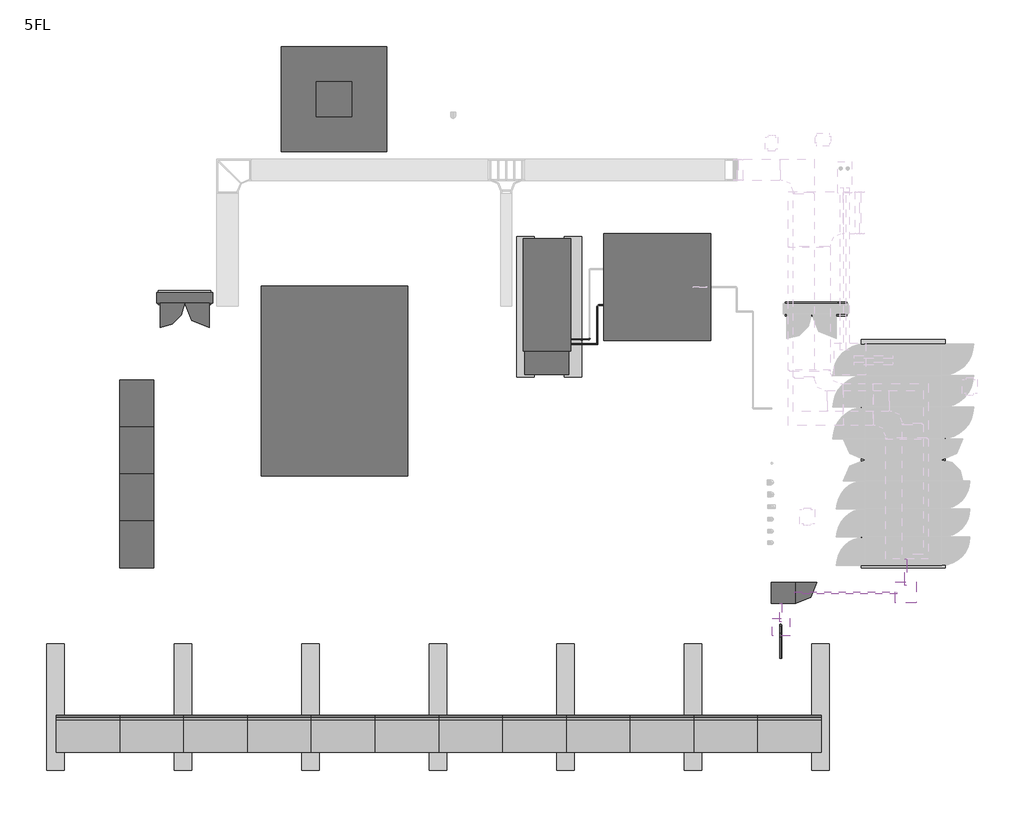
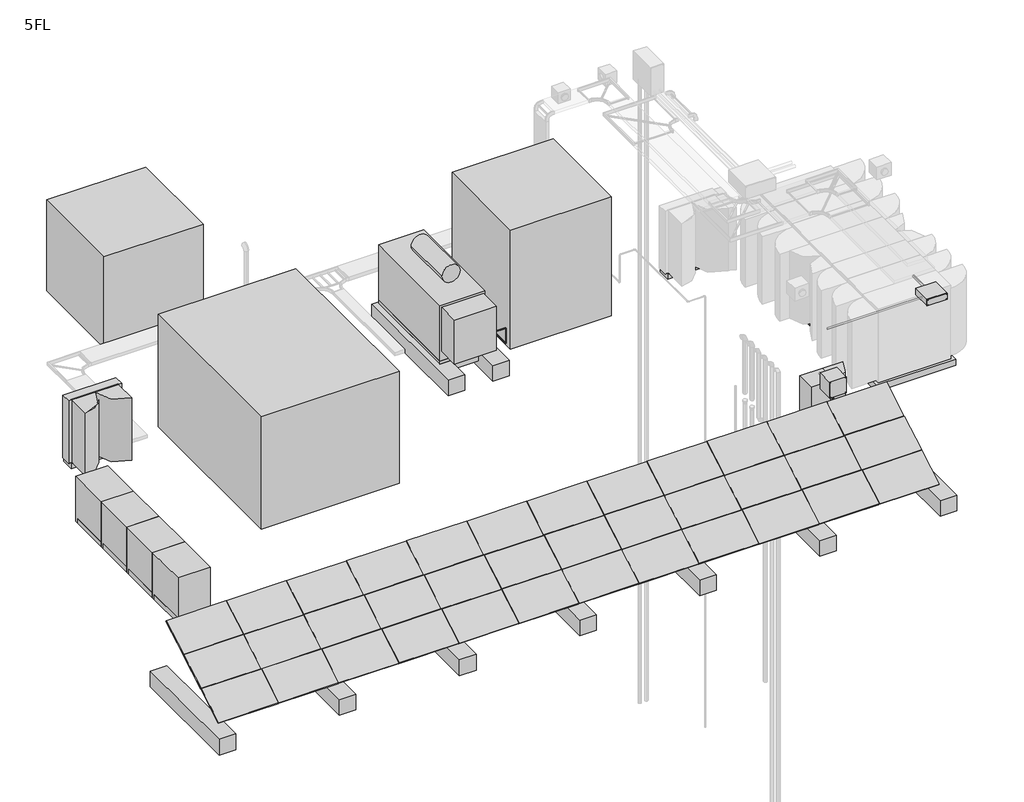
# One storey, part 1 of 3: 32 proxies, 9 pipe segments, 7 pipe fittings, 5 cable carrier segments, 5 unitary equipment elements, 2 electric distribution boards, 1 cable carrier fitting, 1 sanitary terminal.
"""IFC4 building model written with IfcOpenShell, lengths in millimetres."""

from ifc_helpers import new_model, si_unit, point, frame, frame_2d, origin, place, context, project, spatial, circle_curve, trimmed, segment, composite_curve, outline, extrude, transform, mapped, element, save
from components import specialty_equipment_491e8242, specialty_equipment_f9ccd08d, specialty_equipment_eae59b2d, specialty_equipment_e7cf3806, specialty_equipment_5abf0861, specialty_equipment_376b6c60, specialty_equipment_81c4c9b8, specialty_equipment_a7fb6e89, specialty_equipment_5ca071b2, specialty_equipment_ba1d7a8f, specialty_equipment_31256d45, specialty_equipment_83033e40, specialty_equipment_dd2b1215, specialty_equipment_e08e03be, electrical_fixtures_92a770d1, electrical_fixtures_ff4ad9fe, electrical_equipment_0ac44569, proxy_08_100_e228f26e, common_d9f80457, electric_distribution_board_057822bf, electric_distribution_board_10kw_1059af6d, common_bebf707b, sanitary_terminal_76d9e88b, unitary_equipment_118kw_79313d1a, unitary_equipment_8_0kw_cc028bcb

model = new_model("IFC4")

# Units and contexts
model_context = context("Model", 3, world=origin())
ifc_project = project(units=[si_unit("LENGTHUNIT", "METRE", prefix="MILLI")], contexts=[model_context])

# Site, building, storey
site = spatial("IfcSite", under=ifc_project)
building = spatial("IfcBuilding", under=site)
storey = spatial("IfcBuildingStorey", under=building, Name="5FL", Elevation=16400.0)

# Proxies
placement = place(None, origin())
specialty_equipment_shape = specialty_equipment_491e8242(model_context)
element("IfcBuildingElementProxy", 1, Name="機械基礎(電気) : 機械基礎(電気)", ObjectType="機械基礎(電気) : 機械基礎(電気)", at=placement, inside=storey, context=model_context, shape_type="MappedRepresentation", body=[
    mapped(specialty_equipment_shape, transform((27140.0, 15380.0, 16400.0), x_axis=(1.0, 0.0, 0.0), y_axis=(0.0, 1.0, 0.0), z_axis=(0.0, 0.0, 1.0))),
])
specialty_equipment_2_shape = specialty_equipment_f9ccd08d(model_context)
element("IfcBuildingElementProxy", 2, Name="機械基礎(電気) : 機械基礎(電気)", ObjectType="機械基礎(電気) : 機械基礎(電気)", at=placement, inside=storey, context=model_context, shape_type="MappedRepresentation", body=[
    mapped(specialty_equipment_2_shape, transform((18400.0, 15438.8996138, 16400.0), x_axis=(0.0, 1.0, 0.0), y_axis=(-1.0, 0.0, 0.0), z_axis=(0.0, 0.0, 1.0))),
])
element("IfcBuildingElementProxy", 3, Name="機械基礎(電気) : 機械基礎(電気)", ObjectType="機械基礎(電気) : 機械基礎(電気)", at=placement, inside=storey, context=model_context, shape_type="MappedRepresentation", body=[
    mapped(specialty_equipment_2_shape, transform((19750.0, 15438.8996138, 16400.0), x_axis=(0.0, 1.0, 0.0), y_axis=(-1.0, 0.0, 0.0), z_axis=(0.0, 0.0, 1.0))),
])
specialty_equipment_3_shape = specialty_equipment_eae59b2d(model_context)
element("IfcBuildingElementProxy", 4, Name="機械基礎(電気) : 機械基礎(電気)", ObjectType="機械基礎(電気) : 機械基礎(電気)", at=placement, inside=storey, context=model_context, shape_type="MappedRepresentation", body=[
    mapped(specialty_equipment_3_shape, transform((29150.0424675, 11260.0, 16400.0), x_axis=(0.0, 1.0, 0.0), y_axis=(-1.0, 0.0, 0.0), z_axis=(0.0, 0.0, 1.0))),
])
specialty_equipment_4_shape = specialty_equipment_e7cf3806(model_context)
element("IfcBuildingElementProxy", 5, Name="機械基礎(電気) : 機械基礎(電気)", ObjectType="機械基礎(電気) : 機械基礎(電気)", at=placement, inside=storey, context=model_context, shape_type="MappedRepresentation", body=[
    mapped(specialty_equipment_4_shape, transform((8650.0, 4045.2819279, 16400.0), x_axis=(0.0, 1.0, 0.0), y_axis=(-1.0, 0.0, 0.0), z_axis=(0.0, 0.0, 1.0))),
])
element("IfcBuildingElementProxy", 6, Name="機械基礎(電気) : 機械基礎(電気)", ObjectType="機械基礎(電気) : 機械基礎(電気)", at=placement, inside=storey, context=model_context, shape_type="MappedRepresentation", body=[
    mapped(specialty_equipment_4_shape, transform((26800.0, 4045.2819279, 16400.0), x_axis=(0.0, 1.0, 0.0), y_axis=(-1.0, 0.0, 0.0), z_axis=(0.0, 0.0, 1.0))),
])
element("IfcBuildingElementProxy", 7, Name="機械基礎(電気) : 機械基礎(電気)", ObjectType="機械基礎(電気) : 機械基礎(電気)", at=placement, inside=storey, context=model_context, shape_type="MappedRepresentation", body=[
    mapped(specialty_equipment_4_shape, transform((12280.0, 4045.2819279, 16400.0), x_axis=(0.0, 1.0, 0.0), y_axis=(-1.0, 0.0, 0.0), z_axis=(0.0, 0.0, 1.0))),
])
element("IfcBuildingElementProxy", 8, Name="機械基礎(電気) : 機械基礎(電気)", ObjectType="機械基礎(電気) : 機械基礎(電気)", at=placement, inside=storey, context=model_context, shape_type="MappedRepresentation", body=[
    mapped(specialty_equipment_4_shape, transform((15910.0, 4045.2819279, 16400.0), x_axis=(0.0, 1.0, 0.0), y_axis=(-1.0, 0.0, 0.0), z_axis=(0.0, 0.0, 1.0))),
])
element("IfcBuildingElementProxy", 9, Name="機械基礎(電気) : 機械基礎(電気)", ObjectType="機械基礎(電気) : 機械基礎(電気)", at=placement, inside=storey, context=model_context, shape_type="MappedRepresentation", body=[
    mapped(specialty_equipment_4_shape, transform((19540.0, 4045.2819279, 16400.0), x_axis=(0.0, 1.0, 0.0), y_axis=(-1.0, 0.0, 0.0), z_axis=(0.0, 0.0, 1.0))),
])
element("IfcBuildingElementProxy", 10, Name="機械基礎(電気) : 機械基礎(電気)", ObjectType="機械基礎(電気) : 機械基礎(電気)", at=placement, inside=storey, context=model_context, shape_type="MappedRepresentation", body=[
    mapped(specialty_equipment_4_shape, transform((23170.0, 4045.2819279, 16400.0), x_axis=(0.0, 1.0, 0.0), y_axis=(-1.0, 0.0, 0.0), z_axis=(0.0, 0.0, 1.0))),
])
element("IfcBuildingElementProxy", 11, Name="機械基礎(電気) : 機械基礎(電気)", ObjectType="機械基礎(電気) : 機械基礎(電気)", at=placement, inside=storey, context=model_context, shape_type="MappedRepresentation", body=[
    mapped(specialty_equipment_4_shape, transform((5020.0, 4045.2819279, 16400.0), x_axis=(0.0, 1.0, 0.0), y_axis=(-1.0, 0.0, 0.0), z_axis=(0.0, 0.0, 1.0))),
])
specialty_equipment_5_shape = specialty_equipment_5abf0861(model_context)
element("IfcBuildingElementProxy", 12, Name="機械基礎(電気) : 機械基礎(電気)", ObjectType="機械基礎(電気) : 機械基礎(電気)", at=placement, inside=storey, context=model_context, shape_type="MappedRepresentation", body=[
    mapped(specialty_equipment_5_shape, transform((8700.0, 15697.969516, 16400.0), x_axis=(1.0, 0.0, 0.0), y_axis=(0.0, 1.0, 0.0), z_axis=(0.0, 0.0, 1.0))),
])
element("IfcBuildingElementProxy", 13, Name="機械基礎(電気) : 機械基礎(電気)", ObjectType="機械基礎(電気) : 機械基礎(電気)", at=placement, inside=storey, context=model_context, shape_type="MappedRepresentation", body=[
    mapped(specialty_equipment_5_shape, transform((26540.0, 15380.0, 16400.0), x_axis=(1.0, 0.0, 0.0), y_axis=(0.0, 1.0, 0.0), z_axis=(0.0, 0.0, 1.0))),
])
specialty_equipment_6_shape = specialty_equipment_376b6c60(model_context)
element("IfcBuildingElementProxy", 14, Name="機械基礎(電気) : 機械基礎(電気)", ObjectType="機械基礎(電気) : 機械基礎(電気)", at=placement, inside=storey, context=model_context, shape_type="MappedRepresentation", body=[
    mapped(specialty_equipment_6_shape, transform((19009.2923051, 15779.6004284, 16600.0), x_axis=(0.0, -1.0, 0.0), y_axis=(1.0, 0.0, 0.0), z_axis=(0.0, 0.0, 1.0))),
])
specialty_equipment_7_shape = specialty_equipment_81c4c9b8(model_context)
element("IfcBuildingElementProxy", 15, Name="機械基礎 : 機械基礎", ObjectType="機械基礎 : 機械基礎", at=placement, inside=storey, context=model_context, shape_type="MappedRepresentation", body=[
    mapped(specialty_equipment_7_shape, transform((22153.8750405, 16000.0, 16400.0), x_axis=(1.0, 0.0, 0.0), y_axis=(0.0, 1.0, 0.0), z_axis=(0.0, 0.0, 1.0))),
])
specialty_equipment_8_shape = specialty_equipment_a7fb6e89(model_context)
element("IfcBuildingElementProxy", 16, Name="サービススペース : サービススペース", ObjectType="サービススペース : サービススペース", at=placement, inside=storey, context=model_context, shape_type="MappedRepresentation", body=[
    mapped(specialty_equipment_8_shape, transform((22153.8750405, 16000.0, 18300.0), x_axis=(1.0, 0.0, 0.0), y_axis=(0.0, 1.0, 0.0), z_axis=(0.0, 0.0, 1.0))),
])
specialty_equipment_9_shape = specialty_equipment_5ca071b2(model_context)
element("IfcBuildingElementProxy", 17, Name="サービススペース : サービススペース", ObjectType="サービススペース : サービススペース", at=placement, inside=storey, context=model_context, shape_type="MappedRepresentation", body=[
    mapped(specialty_equipment_9_shape, transform((12962.9716093, 13326.6237803, 18190.0), x_axis=(0.0, -1.0, 0.0), y_axis=(1.0, 0.0, 0.0), z_axis=(0.0, 0.0, 1.0))),
])
specialty_equipment_10_shape = specialty_equipment_ba1d7a8f(model_context)
element("IfcBuildingElementProxy", 18, Name="機械基礎 : 機械基礎", ObjectType="機械基礎 : 機械基礎", at=placement, inside=storey, context=model_context, shape_type="MappedRepresentation", body=[
    mapped(specialty_equipment_10_shape, transform((12962.9716093, 13326.6237803, 16400.0), x_axis=(0.0, -1.0, 0.0), y_axis=(1.0, 0.0, 0.0), z_axis=(0.0, 0.0, 1.0))),
])
specialty_equipment_11_shape = specialty_equipment_31256d45(model_context)
element("IfcBuildingElementProxy", 19, Name="機械基礎 : 機械基礎", ObjectType="機械基礎 : 機械基礎", at=placement, inside=storey, context=model_context, shape_type="MappedRepresentation", body=[
    mapped(specialty_equipment_11_shape, transform((7160.0, 12640.0, 16400.0), x_axis=(0.0, 1.0, 0.0), y_axis=(-1.0, 0.0, 0.0), z_axis=(0.0, 0.0, 1.0))),
])
element("IfcBuildingElementProxy", 20, Name="機械基礎 : 機械基礎", ObjectType="機械基礎 : 機械基礎", at=placement, inside=storey, context=model_context, shape_type="MappedRepresentation", body=[
    mapped(specialty_equipment_11_shape, transform((7160.0, 11300.0, 16400.0), x_axis=(0.0, 1.0, 0.0), y_axis=(-1.0, 0.0, 0.0), z_axis=(0.0, 0.0, 1.0))),
])
element("IfcBuildingElementProxy", 21, Name="機械基礎 : 機械基礎", ObjectType="機械基礎 : 機械基礎", at=placement, inside=storey, context=model_context, shape_type="MappedRepresentation", body=[
    mapped(specialty_equipment_11_shape, transform((7160.0, 9960.0, 16400.0), x_axis=(0.0, 1.0, 0.0), y_axis=(-1.0, 0.0, 0.0), z_axis=(0.0, 0.0, 1.0))),
])
element("IfcBuildingElementProxy", 22, Name="機械基礎 : 機械基礎", ObjectType="機械基礎 : 機械基礎", at=placement, inside=storey, context=model_context, shape_type="MappedRepresentation", body=[
    mapped(specialty_equipment_11_shape, transform((7160.0, 8620.0, 16400.0), x_axis=(0.0, 1.0, 0.0), y_axis=(-1.0, 0.0, 0.0), z_axis=(0.0, 0.0, 1.0))),
])
specialty_equipment_12_shape = specialty_equipment_83033e40(model_context)
element("IfcBuildingElementProxy", 23, Name="サービススペース : サービススペース", ObjectType="サービススペース : サービススペース", at=placement, inside=storey, context=model_context, shape_type="MappedRepresentation", body=[
    mapped(specialty_equipment_12_shape, transform((7335.0, 12690.0, 17120.0), x_axis=(0.0, 1.0, 0.0), y_axis=(-1.0, 0.0, 0.0), z_axis=(0.0, 0.0, 1.0))),
])
element("IfcBuildingElementProxy", 24, Name="サービススペース : サービススペース", ObjectType="サービススペース : サービススペース", at=placement, inside=storey, context=model_context, shape_type="MappedRepresentation", body=[
    mapped(specialty_equipment_12_shape, transform((7335.0, 11350.0, 17120.0), x_axis=(0.0, 1.0, 0.0), y_axis=(-1.0, 0.0, 0.0), z_axis=(0.0, 0.0, 1.0))),
])
element("IfcBuildingElementProxy", 25, Name="サービススペース : サービススペース", ObjectType="サービススペース : サービススペース", at=placement, inside=storey, context=model_context, shape_type="MappedRepresentation", body=[
    mapped(specialty_equipment_12_shape, transform((7335.0, 10010.0, 17120.0), x_axis=(0.0, 1.0, 0.0), y_axis=(-1.0, 0.0, 0.0), z_axis=(0.0, 0.0, 1.0))),
])
element("IfcBuildingElementProxy", 26, Name="サービススペース : サービススペース", ObjectType="サービススペース : サービススペース", at=placement, inside=storey, context=model_context, shape_type="MappedRepresentation", body=[
    mapped(specialty_equipment_12_shape, transform((7335.0, 8670.0, 17120.0), x_axis=(0.0, 1.0, 0.0), y_axis=(-1.0, 0.0, 0.0), z_axis=(0.0, 0.0, 1.0))),
])
specialty_equipment_13_shape = specialty_equipment_dd2b1215(model_context)
element("IfcBuildingElementProxy", 27, Name="機械基礎_下駄(衛生) : 機械基礎_下駄(衛生)", ObjectType="機械基礎_下駄(衛生) : 機械基礎_下駄(衛生)", at=placement, inside=storey, context=model_context, shape_type="MappedRepresentation", body=[
    mapped(specialty_equipment_13_shape, transform((12950.0, 21850.8785437, 16400.0), x_axis=(1.0, 0.0, 0.0), y_axis=(0.0, 1.0, 0.0), z_axis=(0.0, 0.0, 1.0))),
])
specialty_equipment_14_shape = specialty_equipment_e08e03be(model_context)
element("IfcBuildingElementProxy", 28, Name="サービススペース(衛生) : サービススペース(衛生)", ObjectType="サービススペース(衛生) : サービススペース(衛生)", at=placement, inside=storey, context=model_context, shape_type="MappedRepresentation", body=[
    mapped(specialty_equipment_14_shape, transform((12950.0, 21350.8785437, 17850.0), x_axis=(1.0, 0.0, 0.0), y_axis=(0.0, 1.0, 0.0), z_axis=(0.0, 0.0, 1.0))),
])
electrical_fixtures_shape = electrical_fixtures_92a770d1(model_context)
element("IfcBuildingElementProxy", 29, Name="20206_プルボックス_大_強電用 : 幹線設備", ObjectType="20206_プルボックス_大_強電用 : 幹線設備", at=placement, inside=storey, context=model_context, shape_type="MappedRepresentation", body=[
    mapped(electrical_fixtures_shape, transform((29218.5390297, 7310.0, 19405.0), x_axis=(1.0, 0.0, 0.0), y_axis=(0.0, 1.0, 0.0), z_axis=(0.0, 0.0, 1.0))),
])
electrical_fixtures_2_shape = electrical_fixtures_ff4ad9fe(model_context)
element("IfcBuildingElementProxy", 30, Name="20206_プルボックス_大_強電用 : 幹線設備", ObjectType="20206_プルボックス_大_強電用 : 幹線設備", at=placement, inside=storey, context=model_context, shape_type="MappedRepresentation", body=[
    mapped(electrical_fixtures_2_shape, transform((25672.9264411, 6315.0, 18257.6782544), x_axis=(1.0, 0.0, 0.0), y_axis=(0.0, 1.0, 0.0), z_axis=(0.0, 0.0, 1.0))),
])
electrical_equipment_shape = electrical_equipment_0ac44569(model_context)
element("IfcBuildingElementProxy", 31, Name="50702_太陽光発電装置 : 太陽電池アレイ", ObjectType="50702_太陽光発電装置 : 太陽電池アレイ", at=placement, inside=storey, context=model_context, shape_type="MappedRepresentation", body=[
    mapped(electrical_equipment_shape, transform((25915.0, 2770.0, 17000.0), x_axis=(0.0, 1.0, 0.0), y_axis=(-1.0, 0.0, 0.0), z_axis=(0.0, 0.0, 1.0))),
])
proxy_08_100_shape = proxy_08_100_e228f26e(model_context)
element("IfcBuildingElementProxy", 32, Name="50100_発電機設備_自家発電_ディーゼル_P_屋外形 : 08_100", ObjectType="50100_発電機設備_自家発電_ディーゼル_P_屋外形 : 08_100", at=placement, inside=storey, context=model_context, shape_type="MappedRepresentation", body=[
    mapped(proxy_08_100_shape, transform((19009.2923051, 15779.6004284, 16600.0), x_axis=(0.0, -1.0, 0.0), y_axis=(1.0, 0.0, 0.0), z_axis=(0.0, 0.0, 1.0))),
])

# Cable carrier fitting
common_shape = common_d9f80457(model_context)
element("IfcCableCarrierFitting", 33, ObjectType="011_電線管エルボ : Common", at=placement, inside=storey, context=model_context, shape_type="MappedRepresentation", body=[
    mapped(common_shape, transform((25662.7264411, 6378.1099908, 16500.0), x_axis=(0.0, 0.0, -1.0), y_axis=(0.0, -1.0, 0.0), z_axis=(-1.0, 0.0, 0.0))),
])

# Cable carrier segments
element("IfcCableCarrierSegment", 34, ObjectType="012_厚鋼電線管_G_弱電", at=placement, inside=storey, context=model_context, shape_type="SweptSolid", body=[
    extrude(outline(composite_curve([segment(trimmed(circle_curve(frame_2d((16500.0, 25662.7264411)), 29.8), [point((16500.0, 25632.9264411))], [point((16470.2, 25662.7264411))], False, "CARTESIAN"), True, "CONTINUOUS"), segment(trimmed(circle_curve(frame_2d((16500.0, 25662.7264411)), 29.8), [point((16470.2, 25662.7264411))], [point((16500.0, 25692.5264411))], False, "CARTESIAN"), True, "CONTINUOUS"), segment(trimmed(circle_curve(frame_2d((16500.0, 25662.7264411)), 29.8), [point((16500.0, 25692.5264411))], [point((16529.8, 25662.7264411))], False, "CARTESIAN"), True, "CONTINUOUS"), segment(trimmed(circle_curve(frame_2d((16500.0, 25662.7264411)), 29.8), [point((16529.8, 25662.7264411))], [point((16500.0, 25632.9264411))], False, "CARTESIAN"), True, "CONTINUOUS")], self_intersect=False)), frame((0.0, 5428.1099908, 0.0), z_axis=(0.0, 1.0, 0.0), x_axis=(0.0, 0.0, 1.0)), (0.0, 0.0, 1.0), 605.0),
])
element("IfcCableCarrierSegment", 35, ObjectType="012_厚鋼電線管_G_弱電", at=placement, inside=storey, context=model_context, shape_type="SweptSolid", body=[
    extrude(outline(composite_curve([segment(trimmed(circle_curve(frame_2d((25662.7264411, 6373.1099908)), 29.8), [point((25632.9264411, 6373.1099908))], [point((25662.7264411, 6402.9099908))], False, "CARTESIAN"), True, "CONTINUOUS"), segment(trimmed(circle_curve(frame_2d((25662.7264411, 6373.1099908)), 29.8), [point((25662.7264411, 6402.9099908))], [point((25692.5264411, 6373.1099908))], False, "CARTESIAN"), True, "CONTINUOUS"), segment(trimmed(circle_curve(frame_2d((25662.7264411, 6373.1099908)), 29.8), [point((25692.5264411, 6373.1099908))], [point((25662.7264411, 6343.3099908))], False, "CARTESIAN"), True, "CONTINUOUS"), segment(trimmed(circle_curve(frame_2d((25662.7264411, 6373.1099908)), 29.8), [point((25662.7264411, 6343.3099908))], [point((25632.9264411, 6373.1099908))], False, "CARTESIAN"), True, "CONTINUOUS")], self_intersect=False)), frame((0.0, 0.0, 16845.0), z_axis=(0.0, 0.0, 1.0), x_axis=(1.0, 0.0, 0.0)), (0.0, 0.0, 1.0), 1455.0),
])
element("IfcCableCarrierSegment", 36, ObjectType="012_厚鋼電線管_G_弱電", at=placement, inside=storey, context=model_context, shape_type="SweptSolid", body=[
    extrude(outline(composite_curve([segment(trimmed(circle_curve(frame_2d((18400.0, 25662.7264411)), 29.8), [point((18400.0, 25692.5264411))], [point((18429.8, 25662.7264411))], False, "CARTESIAN"), True, "CONTINUOUS"), segment(trimmed(circle_curve(frame_2d((18400.0, 25662.7264411)), 29.8), [point((18429.8, 25662.7264411))], [point((18400.0, 25632.9264411))], False, "CARTESIAN"), True, "CONTINUOUS"), segment(trimmed(circle_curve(frame_2d((18400.0, 25662.7264411)), 29.8), [point((18400.0, 25632.9264411))], [point((18370.2, 25662.7264411))], False, "CARTESIAN"), True, "CONTINUOUS"), segment(trimmed(circle_curve(frame_2d((18400.0, 25662.7264411)), 29.8), [point((18370.2, 25662.7264411))], [point((18400.0, 25692.5264411))], False, "CARTESIAN"), True, "CONTINUOUS")], self_intersect=False)), frame((0.0, 6470.8935572, 0.0), z_axis=(0.0, 1.0, 0.0), x_axis=(0.0, 0.0, 1.0)), (0.0, 0.0, 1.0), 520.0),
])
element("IfcCableCarrierSegment", 37, ObjectType="021_ねじなし電線管_E_強電", at=placement, inside=storey, context=model_context, shape_type="SweptSolid", body=[
    extrude(outline(composite_curve([segment(trimmed(circle_curve(frame_2d((7293.6525848, 19500.0)), 27.0), [point((7266.6525848, 19500.0))], [point((7293.6525848, 19527.0))], False, "CARTESIAN"), True, "CONTINUOUS"), segment(trimmed(circle_curve(frame_2d((7293.6525848, 19500.0)), 27.0), [point((7293.6525848, 19527.0))], [point((7320.6525848, 19500.0))], False, "CARTESIAN"), True, "CONTINUOUS"), segment(trimmed(circle_curve(frame_2d((7293.6525848, 19500.0)), 27.0), [point((7320.6525848, 19500.0))], [point((7293.6525848, 19473.0))], False, "CARTESIAN"), True, "CONTINUOUS"), segment(trimmed(circle_curve(frame_2d((7293.6525848, 19500.0)), 27.0), [point((7293.6525848, 19473.0))], [point((7266.6525848, 19500.0))], False, "CARTESIAN"), True, "CONTINUOUS")], self_intersect=False)), frame((26068.5390297, 0.0, 0.0), z_axis=(1.0, 0.0, 0.0), x_axis=(0.0, 1.0, 0.0)), (0.0, 0.0, 1.0), 2900.0),
])
element("IfcCableCarrierSegment", 38, ObjectType="012_厚鋼電線管_G_弱電", at=placement, inside=storey, context=model_context, shape_type="SweptSolid", body=[
    extrude(outline(composite_curve([segment(trimmed(circle_curve(frame_2d((19500.0, 29217.1310514)), 29.8), [point((19500.0, 29187.3310514))], [point((19470.2, 29217.1310514))], False, "CARTESIAN"), True, "CONTINUOUS"), segment(trimmed(circle_curve(frame_2d((19500.0, 29217.1310514)), 29.8), [point((19470.2, 29217.1310514))], [point((19500.0, 29246.9310514))], False, "CARTESIAN"), True, "CONTINUOUS"), segment(trimmed(circle_curve(frame_2d((19500.0, 29217.1310514)), 29.8), [point((19500.0, 29246.9310514))], [point((19529.8, 29217.1310514))], False, "CARTESIAN"), True, "CONTINUOUS"), segment(trimmed(circle_curve(frame_2d((19500.0, 29217.1310514)), 29.8), [point((19529.8, 29217.1310514))], [point((19500.0, 29187.3310514))], False, "CARTESIAN"), True, "CONTINUOUS")], self_intersect=False)), frame((0.0, 7500.0, 0.0), z_axis=(0.0, 1.0, 0.0), x_axis=(0.0, 0.0, 1.0)), (0.0, 0.0, 1.0), 760.0760728),
])

# Electric distribution boards
electric_distribution_board_shape = electric_distribution_board_057822bf(model_context)
element("IfcElectricDistributionBoard", 39, ObjectType="21300_制御盤 : 両扉", at=placement, inside=storey, context=model_context, shape_type="MappedRepresentation", body=[
    mapped(electric_distribution_board_shape, transform((8700.0, 15897.969516, 16400.0), x_axis=(1.0, 0.0, 0.0), y_axis=(0.0, 1.0, 0.0), z_axis=(0.0, 0.0, 1.0))),
])
electric_distribution_board_10kw_shape = electric_distribution_board_10kw_1059af6d(model_context)
element("IfcElectricDistributionBoard", 40, ObjectType="50703_太陽光発電設備_パワーコンディショナー : 10kW", at=placement, inside=storey, context=model_context, shape_type="MappedRepresentation", body=[
    mapped(electric_distribution_board_10kw_shape, transform((25396.0417977, 7290.0, 16400.0), x_axis=(0.0, 1.0, 0.0), y_axis=(-1.0, 0.0, 0.0), z_axis=(0.0, 0.0, 1.0))),
])

# Pipe fittings
common_2_shape = common_bebf707b(model_context)
element("IfcPipeFitting", 41, ObjectType="011_エルボ : Common", at=placement, inside=storey, context=model_context, shape_type="MappedRepresentation", body=[
    mapped(common_2_shape, transform((20803.4571217, 15487.5, 16700.0), x_axis=(0.0, 0.0, -1.0), y_axis=(-1.0, 0.0, 0.0), z_axis=(0.0, 1.0, 0.0))),
])
element("IfcPipeFitting", 42, ObjectType="011_エルボ : Common", at=placement, inside=storey, context=model_context, shape_type="MappedRepresentation", body=[
    mapped(common_2_shape, transform((20803.4571217, 15487.5, 16799.9990629), x_axis=(0.0, 0.0, 1.0), y_axis=(1.0, 0.0, 0.0), z_axis=(0.0, 1.0, 0.0))),
])
element("IfcPipeFitting", 43, ObjectType="011_エルボ : Common", at=placement, inside=storey, context=model_context, shape_type="MappedRepresentation", body=[
    mapped(common_2_shape, transform((20440.0, 14380.0, 17200.0), x_axis=(0.0, 0.0, 1.0), y_axis=(-1.0, 0.0, 0.0), z_axis=(0.0, -1.0, 0.0))),
])
element("IfcPipeFitting", 44, ObjectType="011_エルボ : Common", at=placement, inside=storey, context=model_context, shape_type="MappedRepresentation", body=[
    mapped(common_2_shape, transform((20002.6030474, 14512.5361303, 17200.0), x_axis=(0.0, 0.0, 1.0), y_axis=(-1.0, 0.0, 0.0), z_axis=(0.0, -1.0, 0.0))),
])
element("IfcPipeFitting", 45, ObjectType="011_エルボ : Common", at=placement, inside=storey, context=model_context, shape_type="MappedRepresentation", body=[
    mapped(common_2_shape, transform((20002.6030474, 14512.5361303, 16700.0), x_axis=(0.0, 0.0, -1.0), y_axis=(1.0, 0.0, 0.0), z_axis=(0.0, -1.0, 0.0))),
])
element("IfcPipeFitting", 46, ObjectType="011_エルボ : Common", at=placement, inside=storey, context=model_context, shape_type="MappedRepresentation", body=[
    mapped(common_2_shape, transform((20222.6030474, 14512.5361303, 16700.0), x_axis=(1.0, 0.0, 0.0), y_axis=(0.0, 1.0, 0.0), z_axis=(0.0, 0.0, 1.0))),
])
element("IfcPipeFitting", 47, ObjectType="011_エルボ : Common", at=placement, inside=storey, context=model_context, shape_type="MappedRepresentation", body=[
    mapped(common_2_shape, transform((20440.0, 14380.0, 16700.0), x_axis=(0.0, 0.0, -1.0), y_axis=(0.0, 1.0, 0.0), z_axis=(1.0, 0.0, 0.0))),
])

# Pipe segments
element("IfcPipeSegment", 48, ObjectType="00_供給", at=placement, inside=storey, context=model_context, shape_type="SweptSolid", body=[
    extrude(outline(composite_curve([segment(trimmed(circle_curve(frame_2d((15487.5, 16799.9990629)), 10.85), [point((15476.65, 16799.9990629))], [point((15487.5, 16810.8490629))], False, "CARTESIAN"), True, "CONTINUOUS"), segment(trimmed(circle_curve(frame_2d((15487.5, 16799.9990629)), 10.85), [point((15487.5, 16810.8490629))], [point((15498.35, 16799.9990629))], False, "CARTESIAN"), True, "CONTINUOUS"), segment(trimmed(circle_curve(frame_2d((15487.5, 16799.9990629)), 10.85), [point((15498.35, 16799.9990629))], [point((15487.5, 16789.1490629))], False, "CARTESIAN"), True, "CONTINUOUS"), segment(trimmed(circle_curve(frame_2d((15487.5, 16799.9990629)), 10.85), [point((15487.5, 16789.1490629))], [point((15476.65, 16799.9990629))], False, "CARTESIAN"), True, "CONTINUOUS")], self_intersect=False)), frame((20830.4571217, 0.0, 0.0), z_axis=(1.0, 0.0, 0.0), x_axis=(0.0, 1.0, 0.0)), (0.0, 0.0, 1.0), 278.4179188),
])
element("IfcPipeSegment", 49, ObjectType="00_供給", at=placement, inside=storey, context=model_context, shape_type="SweptSolid", body=[
    extrude(outline(composite_curve([segment(trimmed(circle_curve(frame_2d((20803.4571217, 15487.5)), 10.85), [point((20792.6071217, 15487.5))], [point((20803.4571217, 15498.35))], False, "CARTESIAN"), True, "CONTINUOUS"), segment(trimmed(circle_curve(frame_2d((20803.4571217, 15487.5)), 10.85), [point((20803.4571217, 15498.35))], [point((20814.3071217, 15487.5))], False, "CARTESIAN"), True, "CONTINUOUS"), segment(trimmed(circle_curve(frame_2d((20803.4571217, 15487.5)), 10.85), [point((20814.3071217, 15487.5))], [point((20803.4571217, 15476.65))], False, "CARTESIAN"), True, "CONTINUOUS"), segment(trimmed(circle_curve(frame_2d((20803.4571217, 15487.5)), 10.85), [point((20803.4571217, 15476.65))], [point((20792.6071217, 15487.5))], False, "CARTESIAN"), True, "CONTINUOUS")], self_intersect=False)), frame((0.0, 0.0, 16727.0), z_axis=(0.0, 0.0, 1.0), x_axis=(1.0, 0.0, 0.0)), (0.0, 0.0, 1.0), 45.9990629),
])
element("IfcPipeSegment", 50, ObjectType="00_供給", at=placement, inside=storey, context=model_context, shape_type="SweptSolid", body=[
    extrude(outline(composite_curve([segment(trimmed(circle_curve(frame_2d((15487.5, 16700.0)), 10.85), [point((15498.35, 16700.0))], [point((15487.5, 16689.15))], False, "CARTESIAN"), True, "CONTINUOUS"), segment(trimmed(circle_curve(frame_2d((15487.5, 16700.0)), 10.85), [point((15487.5, 16689.15))], [point((15476.65, 16700.0))], False, "CARTESIAN"), True, "CONTINUOUS"), segment(trimmed(circle_curve(frame_2d((15487.5, 16700.0)), 10.85), [point((15476.65, 16700.0))], [point((15487.5, 16710.85))], False, "CARTESIAN"), True, "CONTINUOUS"), segment(trimmed(circle_curve(frame_2d((15487.5, 16700.0)), 10.85), [point((15487.5, 16710.85))], [point((15498.35, 16700.0))], False, "CARTESIAN"), True, "CONTINUOUS")], self_intersect=False)), frame((20467.0, 0.0, 0.0), z_axis=(1.0, 0.0, 0.0), x_axis=(0.0, 1.0, 0.0)), (0.0, 0.0, 1.0), 309.4571217),
])
element("IfcPipeSegment", 51, ObjectType="00_供給", at=placement, inside=storey, context=model_context, shape_type="SweptSolid", body=[
    extrude(outline(composite_curve([segment(trimmed(circle_curve(frame_2d((16700.0, 20440.0)), 10.85), [point((16700.0, 20429.15))], [point((16689.15, 20440.0))], False, "CARTESIAN"), True, "CONTINUOUS"), segment(trimmed(circle_curve(frame_2d((16700.0, 20440.0)), 10.85), [point((16689.15, 20440.0))], [point((16700.0, 20450.85))], False, "CARTESIAN"), True, "CONTINUOUS"), segment(trimmed(circle_curve(frame_2d((16700.0, 20440.0)), 10.85), [point((16700.0, 20450.85))], [point((16710.85, 20440.0))], False, "CARTESIAN"), True, "CONTINUOUS"), segment(trimmed(circle_curve(frame_2d((16700.0, 20440.0)), 10.85), [point((16710.85, 20440.0))], [point((16700.0, 20429.15))], False, "CARTESIAN"), True, "CONTINUOUS")], self_intersect=False)), frame((0.0, 14407.0, 0.0), z_axis=(0.0, 1.0, 0.0), x_axis=(0.0, 0.0, 1.0)), (0.0, 0.0, 1.0), 1053.5),
])
element("IfcPipeSegment", 52, ObjectType="00_供給", at=placement, inside=storey, context=model_context, shape_type="SweptSolid", body=[
    extrude(outline(composite_curve([segment(trimmed(circle_curve(frame_2d((14380.0, 17200.0)), 10.85), [point((14390.85, 17200.0))], [point((14380.0, 17189.15))], False, "CARTESIAN"), True, "CONTINUOUS"), segment(trimmed(circle_curve(frame_2d((14380.0, 17200.0)), 10.85), [point((14380.0, 17189.15))], [point((14369.15, 17200.0))], False, "CARTESIAN"), True, "CONTINUOUS"), segment(trimmed(circle_curve(frame_2d((14380.0, 17200.0)), 10.85), [point((14369.15, 17200.0))], [point((14380.0, 17210.85))], False, "CARTESIAN"), True, "CONTINUOUS"), segment(trimmed(circle_curve(frame_2d((14380.0, 17200.0)), 10.85), [point((14380.0, 17210.85))], [point((14390.85, 17200.0))], False, "CARTESIAN"), True, "CONTINUOUS")], self_intersect=False)), frame((19468.7923051, 0.0, 0.0), z_axis=(1.0, 0.0, 0.0), x_axis=(0.0, 1.0, 0.0)), (0.0, 0.0, 1.0), 944.2076949),
])
element("IfcPipeSegment", 53, ObjectType="00_供給", at=placement, inside=storey, context=model_context, shape_type="SweptSolid", body=[
    extrude(outline(composite_curve([segment(trimmed(circle_curve(frame_2d((20440.0, 14380.0)), 10.85), [point((20429.15, 14380.0))], [point((20440.0, 14390.85))], False, "CARTESIAN"), True, "CONTINUOUS"), segment(trimmed(circle_curve(frame_2d((20440.0, 14380.0)), 10.85), [point((20440.0, 14390.85))], [point((20450.85, 14380.0))], False, "CARTESIAN"), True, "CONTINUOUS"), segment(trimmed(circle_curve(frame_2d((20440.0, 14380.0)), 10.85), [point((20450.85, 14380.0))], [point((20440.0, 14369.15))], False, "CARTESIAN"), True, "CONTINUOUS"), segment(trimmed(circle_curve(frame_2d((20440.0, 14380.0)), 10.85), [point((20440.0, 14369.15))], [point((20429.15, 14380.0))], False, "CARTESIAN"), True, "CONTINUOUS")], self_intersect=False)), frame((0.0, 0.0, 16727.0), z_axis=(0.0, 0.0, 1.0), x_axis=(1.0, 0.0, 0.0)), (0.0, 0.0, 1.0), 446.0),
])
element("IfcPipeSegment", 54, ObjectType="00_供給", at=placement, inside=storey, context=model_context, shape_type="SweptSolid", body=[
    extrude(outline(composite_curve([segment(trimmed(circle_curve(frame_2d((14512.5361303, 17200.0)), 10.85), [point((14523.3861303, 17200.0))], [point((14512.5361303, 17189.15))], False, "CARTESIAN"), True, "CONTINUOUS"), segment(trimmed(circle_curve(frame_2d((14512.5361303, 17200.0)), 10.85), [point((14512.5361303, 17189.15))], [point((14501.6861303, 17200.0))], False, "CARTESIAN"), True, "CONTINUOUS"), segment(trimmed(circle_curve(frame_2d((14512.5361303, 17200.0)), 10.85), [point((14501.6861303, 17200.0))], [point((14512.5361303, 17210.85))], False, "CARTESIAN"), True, "CONTINUOUS"), segment(trimmed(circle_curve(frame_2d((14512.5361303, 17200.0)), 10.85), [point((14512.5361303, 17210.85))], [point((14523.3861303, 17200.0))], False, "CARTESIAN"), True, "CONTINUOUS")], self_intersect=False)), frame((19468.7923051, 0.0, 0.0), z_axis=(1.0, 0.0, 0.0), x_axis=(0.0, 1.0, 0.0)), (0.0, 0.0, 1.0), 506.8107423),
])
element("IfcPipeSegment", 55, ObjectType="00_供給", at=placement, inside=storey, context=model_context, shape_type="SweptSolid", body=[
    extrude(outline(composite_curve([segment(trimmed(circle_curve(frame_2d((20002.6030474, 14512.5361303)), 10.85), [point((19991.7530474, 14512.5361303))], [point((20002.6030474, 14523.3861303))], False, "CARTESIAN"), True, "CONTINUOUS"), segment(trimmed(circle_curve(frame_2d((20002.6030474, 14512.5361303)), 10.85), [point((20002.6030474, 14523.3861303))], [point((20013.4530474, 14512.5361303))], False, "CARTESIAN"), True, "CONTINUOUS"), segment(trimmed(circle_curve(frame_2d((20002.6030474, 14512.5361303)), 10.85), [point((20013.4530474, 14512.5361303))], [point((20002.6030474, 14501.6861303))], False, "CARTESIAN"), True, "CONTINUOUS"), segment(trimmed(circle_curve(frame_2d((20002.6030474, 14512.5361303)), 10.85), [point((20002.6030474, 14501.6861303))], [point((19991.7530474, 14512.5361303))], False, "CARTESIAN"), True, "CONTINUOUS")], self_intersect=False)), frame((0.0, 0.0, 16727.0), z_axis=(0.0, 0.0, 1.0), x_axis=(1.0, 0.0, 0.0)), (0.0, 0.0, 1.0), 446.0),
])
element("IfcPipeSegment", 56, ObjectType="00_供給", at=placement, inside=storey, context=model_context, shape_type="SweptSolid", body=[
    extrude(outline(composite_curve([segment(trimmed(circle_curve(frame_2d((14512.5361303, 16700.0)), 10.85), [point((14501.6861303, 16700.0))], [point((14512.5361303, 16710.85))], False, "CARTESIAN"), True, "CONTINUOUS"), segment(trimmed(circle_curve(frame_2d((14512.5361303, 16700.0)), 10.85), [point((14512.5361303, 16710.85))], [point((14523.3861303, 16700.0))], False, "CARTESIAN"), True, "CONTINUOUS"), segment(trimmed(circle_curve(frame_2d((14512.5361303, 16700.0)), 10.85), [point((14523.3861303, 16700.0))], [point((14512.5361303, 16689.15))], False, "CARTESIAN"), True, "CONTINUOUS"), segment(trimmed(circle_curve(frame_2d((14512.5361303, 16700.0)), 10.85), [point((14512.5361303, 16689.15))], [point((14501.6861303, 16700.0))], False, "CARTESIAN"), True, "CONTINUOUS")], self_intersect=False)), frame((20029.6030474, 0.0, 0.0), z_axis=(1.0, 0.0, 0.0), x_axis=(0.0, 1.0, 0.0)), (0.0, 0.0, 1.0), 166.0),
])

# Sanitary terminal
sanitary_terminal_shape = sanitary_terminal_76d9e88b(model_context)
element("IfcSanitaryTerminal", 57, ObjectType="04060_TF_消火用充水タンク : 消火用充水タンク", at=placement, inside=storey, context=model_context, shape_type="MappedRepresentation", body=[
    mapped(sanitary_terminal_shape, transform((12950.0, 21350.8785437, 16400.0), x_axis=(1.0, 0.0, 0.0), y_axis=(0.0, 1.0, 0.0), z_axis=(0.0, 0.0, 1.0))),
])

# Unitary equipment
unitary_equipment_118kw_shape = unitary_equipment_118kw_79313d1a(model_context)
element("IfcUnitaryEquipment", 58, ObjectType="03020_AHP_空冷モジュールチラー_D : 118kW", at=placement, inside=storey, context=model_context, shape_type="MappedRepresentation", body=[
    mapped(unitary_equipment_118kw_shape, transform((12430.4716093, 13326.6237803, 16400.0), x_axis=(0.0, -1.0, 0.0), y_axis=(1.0, 0.0, 0.0), z_axis=(0.0, 0.0, 1.0))),
])
unitary_equipment_8_0kw_shape = unitary_equipment_8_0kw_cc028bcb(model_context)
element("IfcUnitaryEquipment", 59, ObjectType="07051_PAC_屋外機_店舗用 : 8.0kW", at=placement, inside=storey, context=model_context, shape_type="MappedRepresentation", body=[
    mapped(unitary_equipment_8_0kw_shape, transform((7000.0, 12170.0, 16400.0), x_axis=(0.0, 1.0, 0.0), y_axis=(-1.0, 0.0, 0.0), z_axis=(0.0, 0.0, 1.0))),
])
element("IfcUnitaryEquipment", 60, ObjectType="07051_PAC_屋外機_店舗用 : 8.0kW", at=placement, inside=storey, context=model_context, shape_type="MappedRepresentation", body=[
    mapped(unitary_equipment_8_0kw_shape, transform((7000.0, 10830.0, 16400.0), x_axis=(0.0, 1.0, 0.0), y_axis=(-1.0, 0.0, 0.0), z_axis=(0.0, 0.0, 1.0))),
])
element("IfcUnitaryEquipment", 61, ObjectType="07051_PAC_屋外機_店舗用 : 8.0kW", at=placement, inside=storey, context=model_context, shape_type="MappedRepresentation", body=[
    mapped(unitary_equipment_8_0kw_shape, transform((7000.0, 9490.0, 16400.0), x_axis=(0.0, 1.0, 0.0), y_axis=(-1.0, 0.0, 0.0), z_axis=(0.0, 0.0, 1.0))),
])
element("IfcUnitaryEquipment", 62, ObjectType="07051_PAC_屋外機_店舗用 : 8.0kW", at=placement, inside=storey, context=model_context, shape_type="MappedRepresentation", body=[
    mapped(unitary_equipment_8_0kw_shape, transform((7000.0, 8150.0, 16400.0), x_axis=(0.0, 1.0, 0.0), y_axis=(-1.0, 0.0, 0.0), z_axis=(0.0, 0.0, 1.0))),
])

save(model, "model.ifc")
